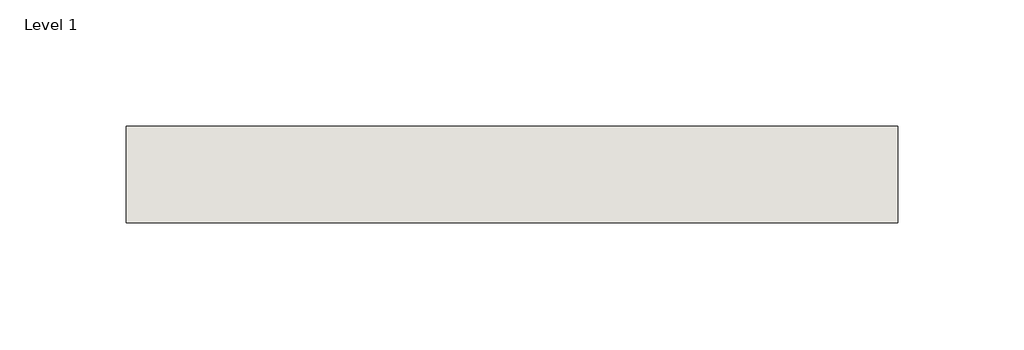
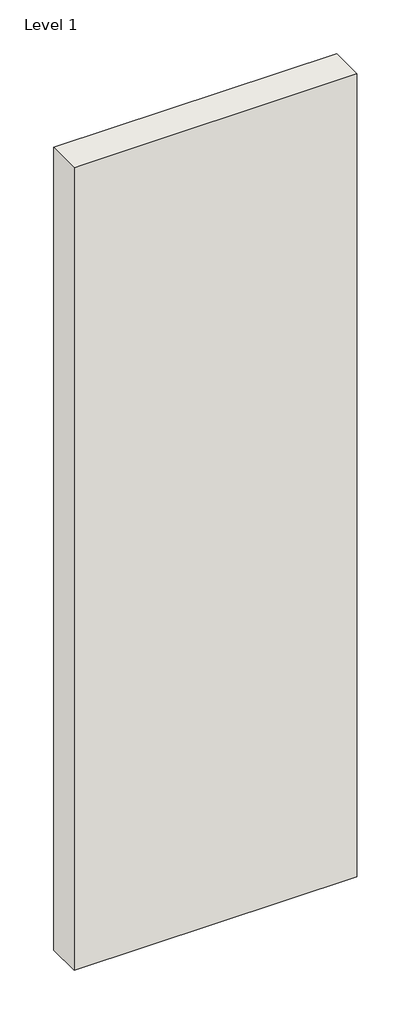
# One storey: 1 wall.
"""IFC4 building model written with IfcOpenShell, lengths in millimetres."""

from ifc_helpers import new_model, si_unit, frame, origin, place, context, project, spatial, polyline, outline, extrude, element, save

model = new_model("IFC4")

# Units and contexts
model_context = context("Model", 3, world=origin())
ifc_project = project(units=[si_unit("LENGTHUNIT", "METRE", prefix="MILLI")], contexts=[model_context])

# Site, building, storey
site = spatial("IfcSite", under=ifc_project)
building = spatial("IfcBuilding", under=site)
storey = spatial("IfcBuildingStorey", under=building, Name="Level 1", Elevation=0.0)

# Wall
placement = place(None, origin())
element("IfcWall", 1, ObjectType="3/4\" PLYWOOD - 4X8 and 3/4\" BOARDFORM", at=placement, inside=storey, context=model_context, shape_type="SweptSolid", body=[
    extrude(outline(polyline([(-3403.8323933, -47.631126), (-3099.0323933, -47.631126), (-3099.0323933, -85.731126), (-3403.8323933, -85.731126), (-3403.8323933, -47.631126)])), frame((0.0, 0.0, 146.3476562), z_axis=(0.0, 0.0, 1.0), x_axis=(1.0, 0.0, 0.0)), (0.0, 0.0, 1.0), 914.4),
])

save(model, "model.ifc")
